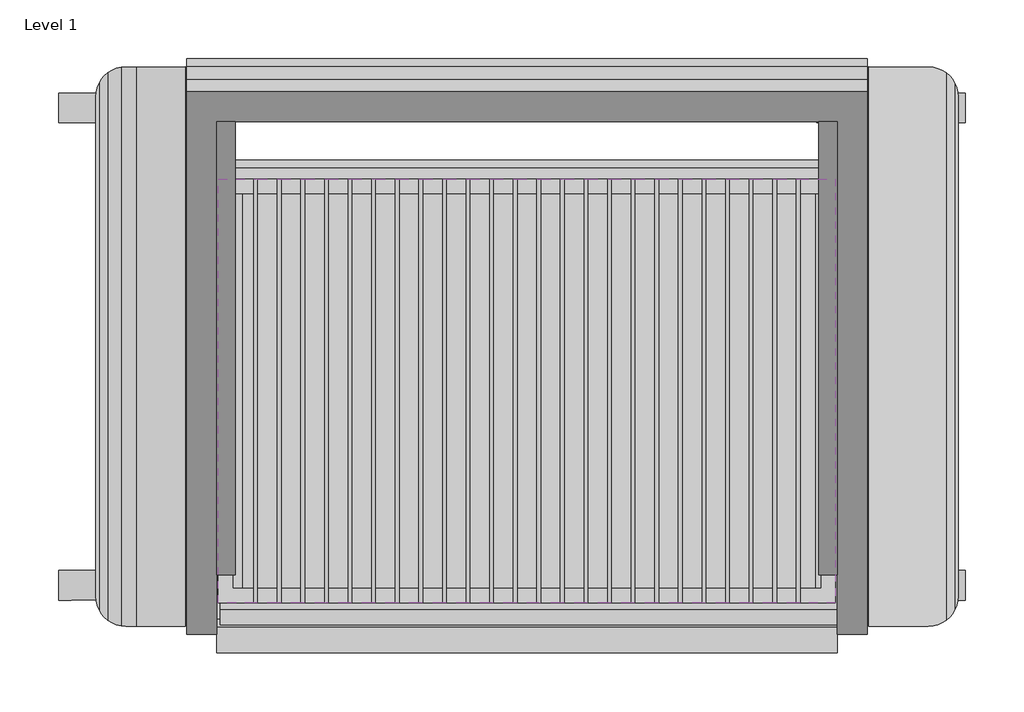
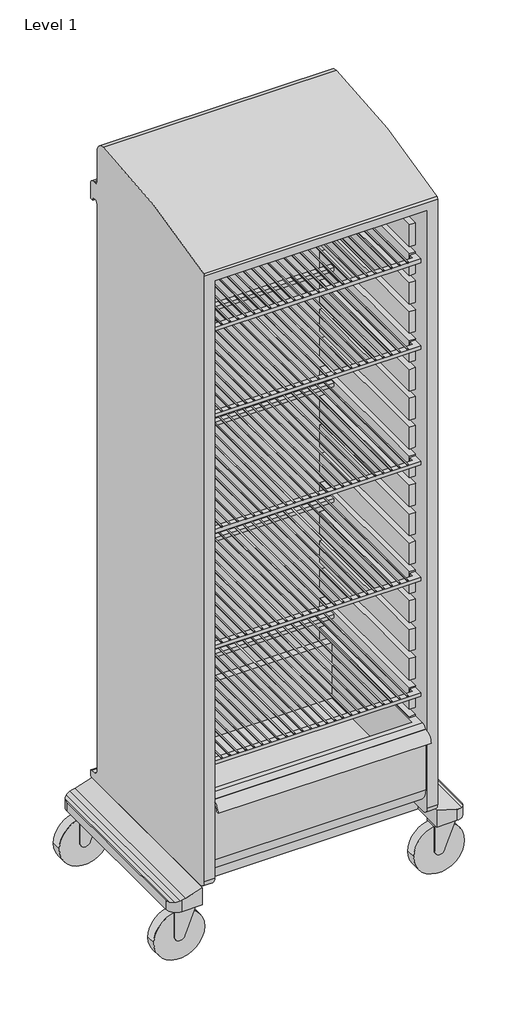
# One storey: 7 furniture elements.
"""IFC4 building model written with IfcOpenShell, lengths in millimetres."""

from ifc_helpers import new_model, si_unit, origin, place, context, project, spatial, transform, mapped, element, save
from components import furniture_57446897, furniture_6242b930, furniture_004cbe47, furniture_19db293d, furniture_c0c68944, furniture_db00a5af, b_6_e607353f

model = new_model("IFC4")

# Units and contexts
model_context = context("Model", 3, world=origin())
ifc_project = project(units=[si_unit("LENGTHUNIT", "METRE", prefix="MILLI")], contexts=[model_context])

# Site, building, storey
site = spatial("IfcSite", under=ifc_project)
building = spatial("IfcBuilding", under=site)
storey = spatial("IfcBuildingStorey", under=building, Name="Level 1", Elevation=0.0)

# Furniture
placement = place(None, origin())
furniture_shape = furniture_57446897(model_context)
element("IfcFurniture", 1, ObjectType="HermanMiller_CoStruc_CO561_LockerWithTambourDoor : 72\"H x 20\"D x 22\"W", at=placement, inside=storey, context=model_context, shape_type="MappedRepresentation", body=[
    mapped(furniture_shape, transform((371.3565908, -246.0625, 0.0), x_axis=(1.0, 0.0, 0.0), y_axis=(0.0, 1.0, 0.0), z_axis=(0.0, 0.0, 1.0))),
])
furniture_2_shape = furniture_6242b930(model_context)
element("IfcFurniture", 2, ObjectType="HermanMiller_CoStruc_CO252_CWireShelf : 14D x 20W", at=placement, inside=storey, context=model_context, shape_type="MappedRepresentation", body=[
    mapped(furniture_2_shape, transform((371.3565908, -284.1625, 0.0), x_axis=(1.0, 0.0, 0.0), y_axis=(0.0, 1.0, 0.0), z_axis=(0.0, 0.0, 1.0))),
])
furniture_3_shape = furniture_004cbe47(model_context)
element("IfcFurniture", 3, ObjectType="HermanMiller_CoStruc_CO252_CWireShelf : 14D x 20W", at=placement, inside=storey, context=model_context, shape_type="MappedRepresentation", body=[
    mapped(furniture_3_shape, transform((371.3565908, -284.1625, 0.0), x_axis=(1.0, 0.0, 0.0), y_axis=(0.0, 1.0, 0.0), z_axis=(0.0, 0.0, 1.0))),
])
furniture_4_shape = furniture_19db293d(model_context)
element("IfcFurniture", 4, ObjectType="HermanMiller_CoStruc_CO252_CWireShelf : 14D x 20W", at=placement, inside=storey, context=model_context, shape_type="MappedRepresentation", body=[
    mapped(furniture_4_shape, transform((371.3565908, -284.1625, 0.0), x_axis=(1.0, 0.0, 0.0), y_axis=(0.0, 1.0, 0.0), z_axis=(0.0, 0.0, 1.0))),
])
furniture_5_shape = furniture_c0c68944(model_context)
element("IfcFurniture", 5, ObjectType="HermanMiller_CoStruc_CO252_CWireShelf : 14D x 20W", at=placement, inside=storey, context=model_context, shape_type="MappedRepresentation", body=[
    mapped(furniture_5_shape, transform((371.3565908, -284.1625, 0.0), x_axis=(1.0, 0.0, 0.0), y_axis=(0.0, 1.0, 0.0), z_axis=(0.0, 0.0, 1.0))),
])
furniture_6_shape = furniture_db00a5af(model_context)
element("IfcFurniture", 6, ObjectType="HermanMiller_CoStruc_CO252_CWireShelf : 14D x 20W", at=placement, inside=storey, context=model_context, shape_type="MappedRepresentation", body=[
    mapped(furniture_6_shape, transform((371.3565908, -284.1625, 0.0), x_axis=(1.0, 0.0, 0.0), y_axis=(0.0, 1.0, 0.0), z_axis=(0.0, 0.0, 1.0))),
])
b_6_shape = b_6_e607353f(model_context)
element("IfcFurniture", 7, ObjectType="HermanMiller_CoStruc_CO207_Drawer : B - 6", at=placement, inside=storey, context=model_context, shape_type="MappedRepresentation", body=[
    mapped(b_6_shape, transform((372.8767424, -288.925, 0.0), x_axis=(1.0, 0.0, 0.0), y_axis=(0.0, 1.0, 0.0), z_axis=(0.0, 0.0, 1.0))),
])

save(model, "model.ifc")
